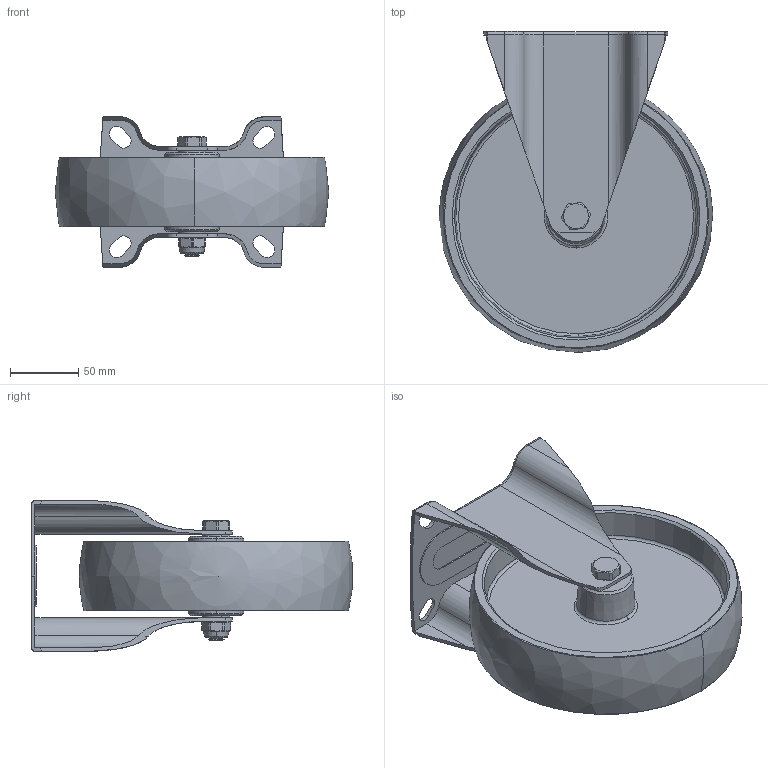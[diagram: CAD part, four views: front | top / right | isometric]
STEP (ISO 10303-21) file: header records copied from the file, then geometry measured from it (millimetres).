
FILE_DESCRIPTION (( 'STEP AP203' ), '1' );
FILE_NAME ('wn8660-fp-200-Wiberger.step', '2026-08-03T06:32:12', ( '' ), ( '' ), 'SwSTEP 2.0', 'SolidWorks 2024', '' );
FILE_SCHEMA (( 'CONFIG_CONTROL_DESIGN' ));
Length unit declared in the file: millimetre
Products named in the file (8): Spacer_9411-RF_9411-RF_Swede-Wheel; Wheel_3620045202N-HD_3620045202N-HD_Swede-Wheel; Bracket_5B2068-RF_5B2068-RF_Swede-Wheel; wn8660-fp-200-Wiberger; Screw_9521280B-RF_9521280B-RF_Swede-Wheel; Nut_9541212B-RF_9541212B-RF_Swede-Wheel; Hub_3620045202N-HD_3620045202N-HD_Swede-Wheel
Assembly tree (7 placements, depth 3):
  wn8660-fp-200-Wiberger
    Bracket_5B2068-RF_5B2068-RF_Swede-Wheel
    Wheel_3620045202N-HD_3620045202N-HD_Swede-Wheel
      Hub_3620045202N-HD_3620045202N-HD_Swede-Wheel
    Spacer_9411-RF_9411-RF_Swede-Wheel
      Spacer_9411-RF_9411-RF_Swede-Wheel
    Nut_9541212B-RF_9541212B-RF_Swede-Wheel
    Screw_9521280B-RF_9521280B-RF_Swede-Wheel
Bounding box: 199.97 x 234.62 x 110 mm (x, y, z)
Volume: 633093.5 mm3; surface area: 213240.8 mm2
Topology: 5 solids, 5 shells, 385 faces, 893 edges, 528 vertices
Faces by surface type: cylinder 116, cone 103, torus 100, plane 64, sphere 2
Entity records: 11987 total; most frequent: DIRECTION 2149, CARTESIAN_POINT 2112, ORIENTED_EDGE 1776, AXIS2_PLACEMENT_3D 914, EDGE_CURVE 888, VERTEX_POINT 525, CIRCLE 517, EDGE_LOOP 415
